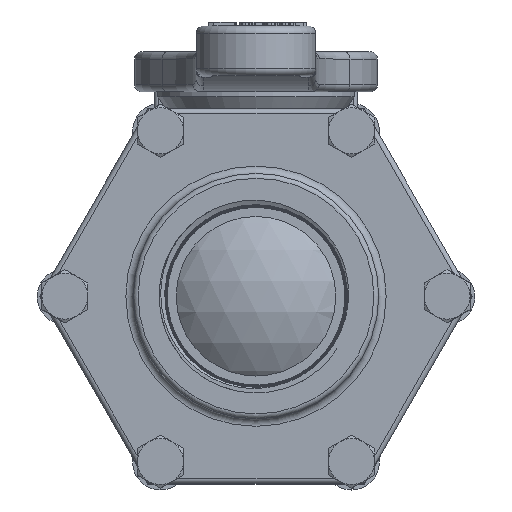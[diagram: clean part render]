
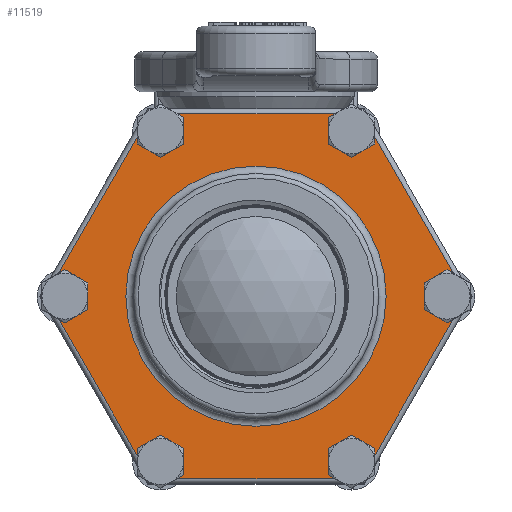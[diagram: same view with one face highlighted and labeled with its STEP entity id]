
A CAD part, top view. The second image highlights one B-rep face of the part: STEP entity #11519.
In plain terms, the highlighted planar face has unit normal (0, 0, 1).
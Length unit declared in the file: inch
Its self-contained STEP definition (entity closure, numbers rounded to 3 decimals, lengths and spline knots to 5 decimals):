
#2311=PLANE('',#12220);
#2914=VECTOR('',#13334,1.);
#2915=VECTOR('',#13337,1.);
#2916=VECTOR('',#13340,1.);
#2917=VECTOR('',#13343,1.);
#2918=VECTOR('',#13346,1.);
#2919=VECTOR('',#13349,1.);
#3534=LINE('',#16872,#2914);
#3535=LINE('',#16878,#2915);
#3536=LINE('',#16883,#2916);
#3537=LINE('',#16888,#2917);
#3538=LINE('',#16893,#2918);
#3539=LINE('',#16898,#2919);
#4395=VERTEX_POINT('',#16867);
#4397=VERTEX_POINT('',#16873);
#4398=VERTEX_POINT('',#16874);
#4399=VERTEX_POINT('',#16876);
#4400=VERTEX_POINT('',#16877);
#4401=VERTEX_POINT('',#16879);
#4402=VERTEX_POINT('',#16881);
#4403=VERTEX_POINT('',#16882);
#4404=VERTEX_POINT('',#16884);
#4405=VERTEX_POINT('',#16886);
#4406=VERTEX_POINT('',#16887);
#4407=VERTEX_POINT('',#16889);
#4408=VERTEX_POINT('',#16891);
#4409=VERTEX_POINT('',#16892);
#4410=VERTEX_POINT('',#16894);
#4411=VERTEX_POINT('',#16896);
#4412=VERTEX_POINT('',#16897);
#4413=VERTEX_POINT('',#16899);
#4414=VERTEX_POINT('',#16901);
#5306=CIRCLE('',#12217,4.0386);
#5308=CIRCLE('',#12221,0.5715);
#5309=CIRCLE('',#12222,0.5715);
#5310=CIRCLE('',#12223,0.5715);
#5311=CIRCLE('',#12224,0.5715);
#5312=CIRCLE('',#12225,0.5715);
#5313=CIRCLE('',#12226,0.5715);
#5802=EDGE_CURVE('',#4395,#4395,#5306,.T.);
#5804=EDGE_CURVE('',#4397,#4398,#3534,.T.);
#5805=EDGE_CURVE('',#4397,#4399,#5308,.T.);
#5806=EDGE_CURVE('',#4399,#4400,#5308,.T.);
#5807=EDGE_CURVE('',#4401,#4400,#3535,.T.);
#5808=EDGE_CURVE('',#4401,#4402,#5309,.T.);
#5809=EDGE_CURVE('',#4402,#4403,#5309,.T.);
#5810=EDGE_CURVE('',#4404,#4403,#3536,.T.);
#5811=EDGE_CURVE('',#4404,#4405,#5310,.T.);
#5812=EDGE_CURVE('',#4405,#4406,#5310,.T.);
#5813=EDGE_CURVE('',#4407,#4406,#3537,.T.);
#5814=EDGE_CURVE('',#4407,#4408,#5311,.T.);
#5815=EDGE_CURVE('',#4408,#4409,#5311,.T.);
#5816=EDGE_CURVE('',#4410,#4409,#3538,.T.);
#5817=EDGE_CURVE('',#4410,#4411,#5312,.T.);
#5818=EDGE_CURVE('',#4411,#4412,#5312,.T.);
#5819=EDGE_CURVE('',#4413,#4412,#3539,.T.);
#5820=EDGE_CURVE('',#4413,#4414,#5313,.T.);
#5821=EDGE_CURVE('',#4414,#4398,#5313,.T.);
#7549=ORIENTED_EDGE('',*,*,#5804,.F.);
#7550=ORIENTED_EDGE('',*,*,#5805,.T.);
#7551=ORIENTED_EDGE('',*,*,#5806,.T.);
#7552=ORIENTED_EDGE('',*,*,#5807,.F.);
#7553=ORIENTED_EDGE('',*,*,#5808,.T.);
#7554=ORIENTED_EDGE('',*,*,#5809,.T.);
#7555=ORIENTED_EDGE('',*,*,#5810,.F.);
#7556=ORIENTED_EDGE('',*,*,#5811,.T.);
#7557=ORIENTED_EDGE('',*,*,#5812,.T.);
#7558=ORIENTED_EDGE('',*,*,#5813,.F.);
#7559=ORIENTED_EDGE('',*,*,#5814,.T.);
#7560=ORIENTED_EDGE('',*,*,#5815,.T.);
#7561=ORIENTED_EDGE('',*,*,#5816,.F.);
#7562=ORIENTED_EDGE('',*,*,#5817,.T.);
#7563=ORIENTED_EDGE('',*,*,#5818,.T.);
#7564=ORIENTED_EDGE('',*,*,#5819,.F.);
#7565=ORIENTED_EDGE('',*,*,#5820,.T.);
#7566=ORIENTED_EDGE('',*,*,#5821,.T.);
#7567=ORIENTED_EDGE('',*,*,#5802,.F.);
#10166=EDGE_LOOP('',(#7549,#7550,#7551,#7552,#7553,#7554,#7555,#7556,#7557,
#7558,#7559,#7560,#7561,#7562,#7563,#7564,#7565,#7566));
#10167=EDGE_LOOP('',(#7567));
#10863=FACE_BOUND('',#10166,.T.);
#10864=FACE_BOUND('',#10167,.T.);
#11519=ADVANCED_FACE('',(#10863,#10864),#2311,.T.);
#12217=AXIS2_PLACEMENT_3D('',#16866,#13327,#13328);
#12220=AXIS2_PLACEMENT_3D('',#16871,#13333,$);
#12221=AXIS2_PLACEMENT_3D('',#16875,#13335,#13336);
#12222=AXIS2_PLACEMENT_3D('',#16880,#13338,#13339);
#12223=AXIS2_PLACEMENT_3D('',#16885,#13341,#13342);
#12224=AXIS2_PLACEMENT_3D('',#16890,#13344,#13345);
#12225=AXIS2_PLACEMENT_3D('',#16895,#13347,#13348);
#12226=AXIS2_PLACEMENT_3D('',#16900,#13350,#13351);
#13327=DIRECTION('',(0.,0.,1.));
#13328=DIRECTION('',(-4.039,0.,0.));
#13333=DIRECTION('',(0.,0.,1.));
#13334=DIRECTION('',(-0.5,-0.866,0.));
#13335=DIRECTION('',(0.,0.,-1.));
#13336=DIRECTION('',(0.286,0.495,0.));
#13337=DIRECTION('',(0.5,-0.866,0.));
#13338=DIRECTION('',(0.,0.,-1.));
#13339=DIRECTION('',(-0.286,0.495,0.));
#13340=DIRECTION('',(1.,0.,0.));
#13341=DIRECTION('',(0.,0.,-1.));
#13342=DIRECTION('',(-0.572,0.,0.));
#13343=DIRECTION('',(0.5,0.866,0.));
#13344=DIRECTION('',(0.,0.,-1.));
#13345=DIRECTION('',(-0.286,-0.495,0.));
#13346=DIRECTION('',(-0.5,0.866,0.));
#13347=DIRECTION('',(0.,0.,-1.));
#13348=DIRECTION('',(0.286,-0.495,0.));
#13349=DIRECTION('',(-1.,0.,0.));
#13350=DIRECTION('',(0.,0.,-1.));
#13351=DIRECTION('',(0.572,0.,0.));
#16866=CARTESIAN_POINT('',(0.,0.,
1.48844));
#16867=CARTESIAN_POINT('',(4.0386,0.,1.48844));
#16871=CARTESIAN_POINT('',(0.,0.,
1.48844));
#16872=CARTESIAN_POINT('',(4.90534,-2.8321,1.48844));
#16873=CARTESIAN_POINT('',(6.27858,-0.45357,1.48844));
#16874=CARTESIAN_POINT('',(3.5321,-5.21063,1.48844));
#16875=CARTESIAN_POINT('',(5.9309,0.,1.48844));
#16876=CARTESIAN_POINT('',(5.64515,-0.49493,1.48844));
#16877=CARTESIAN_POINT('',(6.27858,0.45357,1.48844));
#16878=CARTESIAN_POINT('',(4.90534,2.8321,1.48844));
#16879=CARTESIAN_POINT('',(3.5321,5.21063,1.48844));
#16880=CARTESIAN_POINT('',(2.96545,5.13631,1.48844));
#16881=CARTESIAN_POINT('',(3.2512,4.64138,1.48844));
#16882=CARTESIAN_POINT('',(2.74649,5.6642,1.48844));
#16883=CARTESIAN_POINT('',(0.,5.6642,1.48844));
#16884=CARTESIAN_POINT('',(-2.74649,5.6642,1.48844));
#16885=CARTESIAN_POINT('',(-2.96545,5.13631,1.48844));
#16886=CARTESIAN_POINT('',(-2.39395,5.13631,1.48844));
#16887=CARTESIAN_POINT('',(-3.5321,5.21063,1.48844));
#16888=CARTESIAN_POINT('',(-4.90534,2.8321,1.48844));
#16889=CARTESIAN_POINT('',(-6.27858,0.45357,1.48844));
#16890=CARTESIAN_POINT('',(-5.9309,0.,1.48844));
#16891=CARTESIAN_POINT('',(-5.64515,0.49493,1.48844));
#16892=CARTESIAN_POINT('',(-6.27858,-0.45357,1.48844));
#16893=CARTESIAN_POINT('',(-4.90534,-2.8321,1.48844));
#16894=CARTESIAN_POINT('',(-3.5321,-5.21063,1.48844));
#16895=CARTESIAN_POINT('',(-2.96545,-5.13631,1.48844));
#16896=CARTESIAN_POINT('',(-3.2512,-4.64138,1.48844));
#16897=CARTESIAN_POINT('',(-2.74649,-5.6642,1.48844));
#16898=CARTESIAN_POINT('',(0.,-5.6642,1.48844));
#16899=CARTESIAN_POINT('',(2.74649,-5.6642,1.48844));
#16900=CARTESIAN_POINT('',(2.96545,-5.13631,1.48844));
#16901=CARTESIAN_POINT('',(2.39395,-5.13631,1.48844));
